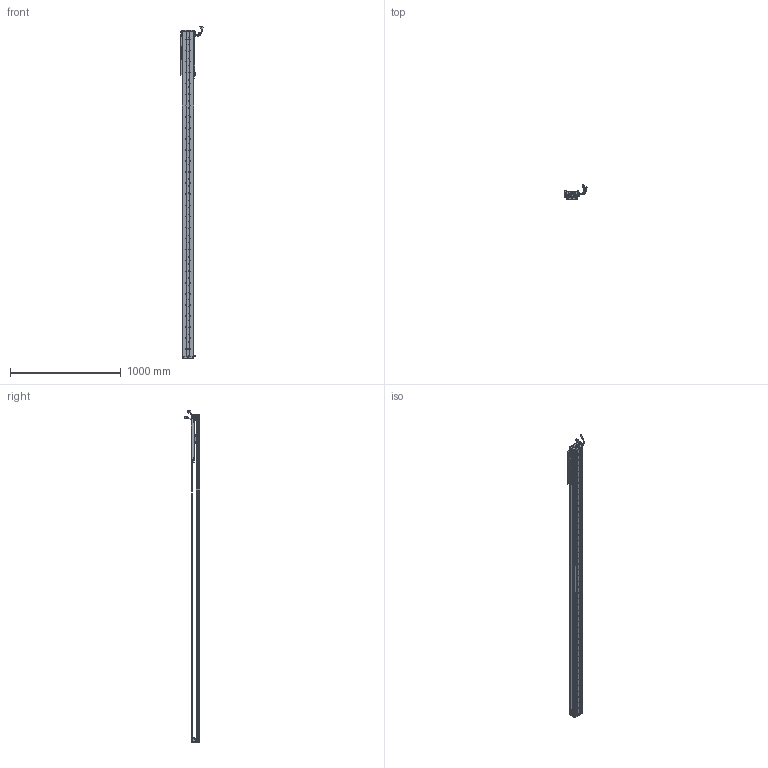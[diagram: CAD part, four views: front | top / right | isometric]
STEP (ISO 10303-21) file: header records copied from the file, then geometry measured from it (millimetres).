
FILE_DESCRIPTION (( 'STEP AP203' ), '1' );
FILE_NAME ('Z5-RY100D-1-L500-B-K.SLDASM_2500.step', '2021-05-17T03:35:05', ( '盈信电脑' ), ( '东莞市道滘镇水果街19号' ), 'SwSTEP 2.0', 'SolidWorks 2016', '' );
FILE_SCHEMA (( 'CONFIG_CONTROL_DESIGN' ));
Length unit declared in the file: millimetre
Products named in the file (36): LABEL; SCREW-M1.6-2; Z5-RY100D-1-L500-B-K.SLDASM_2500; 100-Z-臏賑輸盄裔(21遴); LABEL-Part-1; Z5-RY100铝滑块（21款）; SCREW-M1.7-1; Z5-RY100D-500-倰第菁釱_2500; SHIELDPLATE; COVER-Part-1; SCREW-M1.6-1; COVER; PSLH080_PSLF2; Z-RY100D詩湍狟揤裔; 榋妏寠巭燃_暯_M2_2; 140蚥薯蝶輸; SEAL; PBU_SHEET; 140雄赽晤鎢ん堤盄; HARNESS; SCALE-Part-1; 080黍杅芛假蚾釱21遴; Z-RY100D覜茼んえ; SEAL-Part-1; Z5-RY100-L500詩湍90mm遵_2500; HARNESS-Part-1; HOLDER0; SCREW-M1.6; SCREW-M1.6-3; Z-100詩湍傷裔啣; 覜茼ん672; Z-RY100D詩湍奻揤裔; SCALE; HARNESS-Part-2; SCREW-M1.7; SCALE-Part-2
Assembly tree (43 placements, depth 4):
  Z5-RY100D-1-L500-B-K.SLDASM_2500
    Z5-RY100D-500-倰第菁釱_2500
    Z5-RY100铝滑块（21款）
    PSLH080_PSLF2
      SCALE
        SCALE-Part-1
        SCALE-Part-2
      HARNESS
        HARNESS-Part-1
        HARNESS-Part-2
      LABEL
        LABEL-Part-1
      COVER
        COVER-Part-1
      SEAL
        SEAL-Part-1
      榋妏寠巭燃_暯_M2_2
      SHIELDPLATE
      SCREW-M1.7
      SCREW-M1.7-1
      PBU_SHEET
      SCREW-M1.6
      SCREW-M1.6-1
      SCREW-M1.6-2
      SCREW-M1.6-3
      HOLDER0
    080黍杅芛假蚾釱21遴
    Z-100詩湍傷裔啣  x2
    140蚥薯蝶輸  x2
    覜茼ん672  x3
    Z-RY100D覜茼んえ  x3
    100-Z-臏賑輸盄裔(21遴)
    140雄赽晤鎢ん堤盄
    Z5-RY100-L500詩湍90mm遵_2500
    Z-RY100D詩湍狟揤裔  x2
    Z-RY100D詩湍奻揤裔  x2
Bounding box: 205.79 x 136.11 x 3000.43 mm (x, y, z)
Volume: 5630323.3 mm3; surface area: 2188423.6 mm2
Topology: 38 solids, 38 shells, 3099 faces, 8503 edges, 5436 vertices
Faces by surface type: cylinder 1554, plane 1197, cone 226, torus 69, bspline 53
Entity records: 90589 total; most frequent: CARTESIAN_POINT 18931, DIRECTION 14661, ORIENTED_EDGE 13886, EDGE_CURVE 6943, AXIS2_PLACEMENT_3D 5534, VERTEX_POINT 4504, VECTOR 3593, LINE 3593
